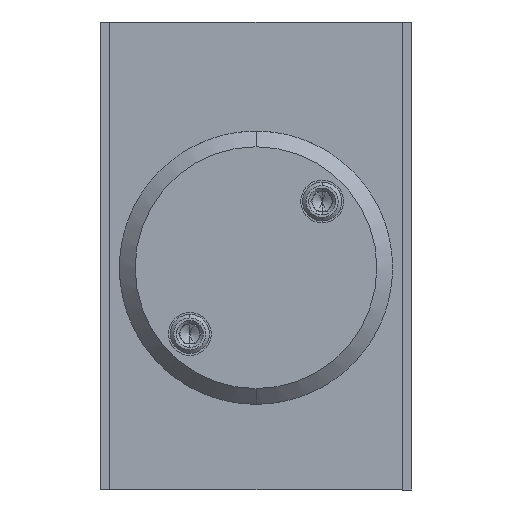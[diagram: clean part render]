
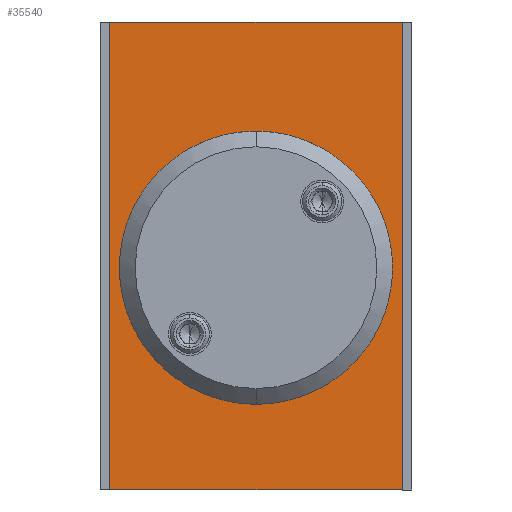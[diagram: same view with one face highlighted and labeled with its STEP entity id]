
A CAD part, left-side view. The second image highlights one B-rep face of the part: STEP entity #35540.
In plain terms, the highlighted planar face has unit normal (-1, 0, 0).
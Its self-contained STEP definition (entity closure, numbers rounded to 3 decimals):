
#2363 = PLANE ( 'NONE',  #76004 ) ;
#2730 = CIRCLE ( 'NONE', #66507, 16. ) ;
#2752 = CARTESIAN_POINT ( 'NONE',  ( 0., 0., -1.5 ) ) ;
#3555 = CARTESIAN_POINT ( 'NONE',  ( 0., -18.75, 30. ) ) ;
#8961 = CARTESIAN_POINT ( 'NONE',  ( 0., 0., 14.5 ) ) ;
#10016 = CARTESIAN_POINT ( 'NONE',  ( 0., 0., -17.5 ) ) ;
#11730 = DIRECTION ( 'NONE',  ( 0., 0., 1. ) ) ;
#15906 = ORIENTED_EDGE ( 'NONE', *, *, #20539, .F. ) ;
#19796 = DIRECTION ( 'NONE',  ( 0., 0., 1. ) ) ;
#20539 = EDGE_CURVE ( 'NONE', #31543, #68776, #2730, .T. ) ;
#22735 = CARTESIAN_POINT ( 'NONE',  ( 0., 0., -1.5 ) ) ;
#23126 = ORIENTED_EDGE ( 'NONE', *, *, #81114, .F. ) ;
#28188 = FACE_OUTER_BOUND ( 'NONE', #94160, .T. ) ;
#31342 = DIRECTION ( 'NONE',  ( 0., 0., 1. ) ) ;
#31543 = VERTEX_POINT ( 'NONE', #10016 ) ;
#34437 = LINE ( 'NONE', #110248, #77281 ) ;
#35540 = ADVANCED_FACE ( 'NONE', ( #50933, #28188 ), #2363, .T. ) ;
#36014 = CARTESIAN_POINT ( 'NONE',  ( 0., 18.75, -30. ) ) ;
#36250 = VECTOR ( 'NONE', #84715, 1000. ) ;
#37288 = CARTESIAN_POINT ( 'NONE',  ( 0., 18.75, -30. ) ) ;
#38395 = LINE ( 'NONE', #3555, #58365 ) ;
#43509 = CARTESIAN_POINT ( 'NONE',  ( 0., 18.75, 30. ) ) ;
#45878 = DIRECTION ( 'NONE',  ( 0., 0., 1. ) ) ;
#50933 = FACE_BOUND ( 'NONE', #68165, .T. ) ;
#51334 = CARTESIAN_POINT ( 'NONE',  ( 0., -18.75, -30. ) ) ;
#52405 = EDGE_CURVE ( 'NONE', #68776, #31543, #74814, .T. ) ;
#56842 = VERTEX_POINT ( 'NONE', #51334 ) ;
#57411 = VERTEX_POINT ( 'NONE', #59647 ) ;
#58365 = VECTOR ( 'NONE', #81186, 1000. ) ;
#59647 = CARTESIAN_POINT ( 'NONE',  ( 0., -18.75, 30. ) ) ;
#60501 = VERTEX_POINT ( 'NONE', #43509 ) ;
#63015 = DIRECTION ( 'NONE',  ( -1., 0., 0. ) ) ;
#63726 = ORIENTED_EDGE ( 'NONE', *, *, #105858, .F. ) ;
#66507 = AXIS2_PLACEMENT_3D ( 'NONE', #22735, #82763, #31342 ) ;
#67003 = DIRECTION ( 'NONE',  ( 0., 1., 0. ) ) ;
#68165 = EDGE_LOOP ( 'NONE', ( #69518, #15906 ) ) ;
#68776 = VERTEX_POINT ( 'NONE', #8961 ) ;
#69518 = ORIENTED_EDGE ( 'NONE', *, *, #52405, .F. ) ;
#72055 = AXIS2_PLACEMENT_3D ( 'NONE', #2752, #63015, #11730 ) ;
#74814 = CIRCLE ( 'NONE', #72055, 16. ) ;
#75572 = CARTESIAN_POINT ( 'NONE',  ( 0., -18.75, 30. ) ) ;
#76004 = AXIS2_PLACEMENT_3D ( 'NONE', #37288, #97507, #45878 ) ;
#77009 = EDGE_CURVE ( 'NONE', #97108, #60501, #81787, .T. ) ;
#77281 = VECTOR ( 'NONE', #67003, 1000. ) ;
#79029 = VECTOR ( 'NONE', #19796, 1000. ) ;
#81114 = EDGE_CURVE ( 'NONE', #57411, #56842, #38395, .T. ) ;
#81186 = DIRECTION ( 'NONE',  ( 0., 0., -1. ) ) ;
#81787 = LINE ( 'NONE', #96926, #79029 ) ;
#81901 = LINE ( 'NONE', #75572, #36250 ) ;
#82763 = DIRECTION ( 'NONE',  ( -1., 0., 0. ) ) ;
#84715 = DIRECTION ( 'NONE',  ( 0., -1., 0. ) ) ;
#94160 = EDGE_LOOP ( 'NONE', ( #112181, #23126, #63726, #98984 ) ) ;
#96926 = CARTESIAN_POINT ( 'NONE',  ( 0., 18.75, 30. ) ) ;
#97108 = VERTEX_POINT ( 'NONE', #36014 ) ;
#97507 = DIRECTION ( 'NONE',  ( -1., 0., 0. ) ) ;
#98984 = ORIENTED_EDGE ( 'NONE', *, *, #77009, .F. ) ;
#102985 = EDGE_CURVE ( 'NONE', #56842, #97108, #34437, .T. ) ;
#105858 = EDGE_CURVE ( 'NONE', #60501, #57411, #81901, .T. ) ;
#110248 = CARTESIAN_POINT ( 'NONE',  ( 0., -18.75, -30. ) ) ;
#112181 = ORIENTED_EDGE ( 'NONE', *, *, #102985, .F. ) ;
